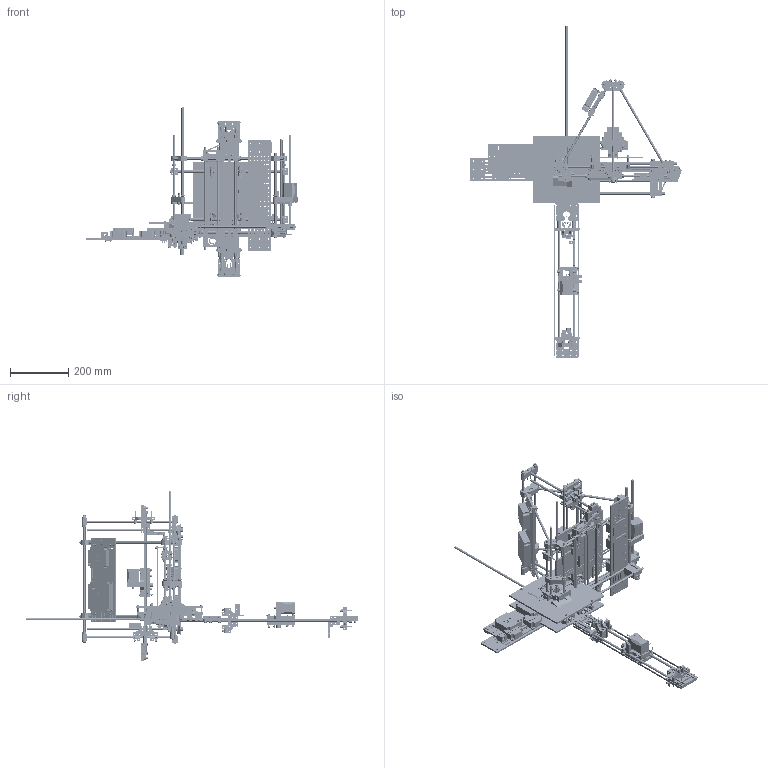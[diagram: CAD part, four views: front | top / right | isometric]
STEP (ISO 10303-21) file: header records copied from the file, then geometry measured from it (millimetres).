
FILE_DESCRIPTION( ( 'Unknown' ), '1' );
FILE_NAME( '//rumba/homes/Profiles_Do_Not_Delete/campus/Desktop/Step/general-assembly.stp', 'Unknown', ( 'Unknown' ), ( 'Unknown' ), 'PSStep 10.0', 'Unknown', ' ' );
FILE_SCHEMA( ( 'automotive_design' ) );
Length unit declared in the file: millimetre
Products named in the file (145): z-leadscrew-base; x-motor-bracket; xlr-bracket; circuit-board-bracket-m3; z-bar-top-clamp; z-motor; y-bearing-180-outer-left; frame-vertex; pinch-wheel-bracket-NEMA17_604-bearing_1off; z-opto-bracket-for-opto-v2-1; x-vert-bearing-360-end; y-idler-bracket; nema-17-motor-with-drive-pulley; y-chassis; frame-side; y-bearing-180-left; x-idler-bracket; opto-endstop-v2.1-with-pcb; Assem1; m3-nylock-with-washer; x-carriage; x-360-bearing-set; 624-with-washers; m4-capx40-with-washer; y-bearing-360-outer-right; y-bearing-180-outer-right; y-bar-clamp; y-bearing-360-inner; m8-nut-with-washer; m4-capx16-with-washer; m3-capx20-with-washer; y-belt-clamp; x-bar-clamp-idler; m4-nut-with-washer; y-bearing-360-right; x-vert-bearing-180-end; x-carriage-belt-clamp; x-vert-drive-nut-trap; y-bearing-360-left; z-tensioner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
Bounding box: 726.88 x 1142.87 x 582 mm (x, y, z)
Volume: 9471855.9 mm3; surface area: 4040264.8 mm2
Topology: 2163 solids, 2163 shells, 30460 faces, 70660 edges, 46141 vertices
Faces by surface type: plane 19453, cylinder 7593, cone 2805, extrusion 479, torus 130
Full cylindrical faces by diameter (mm): 0.5 x6, 1.2 x32, 2.3 x48, 2.459 x94, 2.5 x20, 2.8 x28, 2.9 x98, 3 x270, 3.2 x20, 3.24 x165, 3.242 x172, 3.3 x68, 3.338 x6, 3.4 x112, 3.5 x12, 4 x504, 4.2 x11, 4.4 x1513, 4.917 x6, 5 x40, 5.196 x32, 5.2 x10, 5.45 x115, 6 x12, 6.5 x188, 6.647 x64, 6.8 x165, 7 x317, 8 x66, 8.4 x77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
Entity records: 97580 total; most frequent: CARTESIAN_POINT 21257, DIRECTION 14669, ORIENTED_EDGE 14606, EDGE_CURVE 7303, VECTOR 5071, VERTEX_POINT 5053, LINE 4978, AXIS2_PLACEMENT_3D 4799
